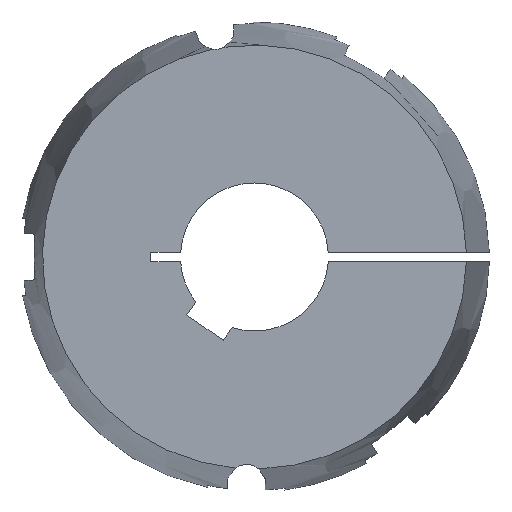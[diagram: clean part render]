
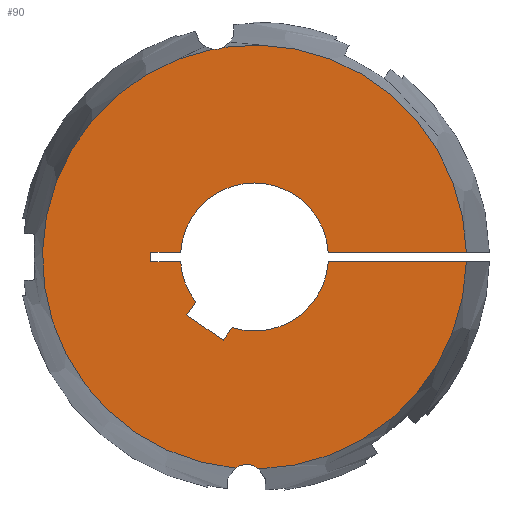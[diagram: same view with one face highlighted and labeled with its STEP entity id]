
A CAD part, left-side view. The second image highlights one B-rep face of the part: STEP entity #90.
In plain terms, the highlighted planar face has unit normal (-1, 0, 0).
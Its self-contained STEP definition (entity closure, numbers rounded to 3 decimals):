
#90 = ADVANCED_FACE( '', ( #140 ), #141, .F. );
#140 = FACE_OUTER_BOUND( '', #208, .T. );
#141 = PLANE( '', #209 );
#208 = EDGE_LOOP( '', ( #369, #370, #371, #372, #373, #374, #375, #376, #377, #378, #379, #380, #381, #382, #383, #384 ) );
#209 = AXIS2_PLACEMENT_3D( '', #385, #386, #387 );
#369 = ORIENTED_EDGE( '', *, *, #548, .F. );
#370 = ORIENTED_EDGE( '', *, *, #601, .F. );
#371 = ORIENTED_EDGE( '', *, *, #570, .T. );
#372 = ORIENTED_EDGE( '', *, *, #583, .T. );
#373 = ORIENTED_EDGE( '', *, *, #581, .T. );
#374 = ORIENTED_EDGE( '', *, *, #578, .T. );
#375 = ORIENTED_EDGE( '', *, *, #587, .T. );
#376 = ORIENTED_EDGE( '', *, *, #602, .T. );
#377 = ORIENTED_EDGE( '', *, *, #603, .T. );
#378 = ORIENTED_EDGE( '', *, *, #604, .T. );
#379 = ORIENTED_EDGE( '', *, *, #605, .T. );
#380 = ORIENTED_EDGE( '', *, *, #606, .T. );
#381 = ORIENTED_EDGE( '', *, *, #572, .T. );
#382 = ORIENTED_EDGE( '', *, *, #607, .F. );
#383 = ORIENTED_EDGE( '', *, *, #551, .F. );
#384 = ORIENTED_EDGE( '', *, *, #608, .F. );
#385 = CARTESIAN_POINT( '', ( -89., 0., 0. ) );
#386 = DIRECTION( '', ( 1., 0., 0. ) );
#387 = DIRECTION( '', ( 0., 1., 0. ) );
#548 = EDGE_CURVE( '', #649, #651, #652, .F. );
#551 = EDGE_CURVE( '', #655, #657, #658, .F. );
#570 = EDGE_CURVE( '', #693, #691, #694, .T. );
#572 = EDGE_CURVE( '', #696, #697, #698, .T. );
#578 = EDGE_CURVE( '', #709, #707, #710, .T. );
#581 = EDGE_CURVE( '', #714, #709, #715, .T. );
#583 = EDGE_CURVE( '', #691, #714, #717, .T. );
#587 = EDGE_CURVE( '', #707, #721, #723, .T. );
#601 = EDGE_CURVE( '', #693, #649, #745, .T. );
#602 = EDGE_CURVE( '', #721, #746, #747, .T. );
#603 = EDGE_CURVE( '', #746, #748, #749, .T. );
#604 = EDGE_CURVE( '', #748, #750, #751, .T. );
#605 = EDGE_CURVE( '', #750, #752, #753, .T. );
#606 = EDGE_CURVE( '', #752, #696, #754, .T. );
#607 = EDGE_CURVE( '', #657, #697, #755, .T. );
#608 = EDGE_CURVE( '', #651, #655, #756, .T. );
#649 = VERTEX_POINT( '', #815 );
#651 = VERTEX_POINT( '', #828 );
#652 = CIRCLE( '', #829, 5.25 );
#655 = VERTEX_POINT( '', #843 );
#657 = VERTEX_POINT( '', #861 );
#658 = CIRCLE( '', #862, 5.25 );
#691 = VERTEX_POINT( '', #935 );
#693 = VERTEX_POINT( '', #938 );
#694 = LINE( '', #939, #940 );
#696 = VERTEX_POINT( '', #948 );
#697 = VERTEX_POINT( '', #949 );
#698 = LINE( '', #950, #951 );
#707 = VERTEX_POINT( '', #969 );
#709 = VERTEX_POINT( '', #972 );
#710 = LINE( '', #973, #974 );
#714 = VERTEX_POINT( '', #980 );
#715 = LINE( '', #981, #982 );
#717 = CIRCLE( '', #985, 20. );
#721 = VERTEX_POINT( '', #990 );
#723 = LINE( '', #993, #994 );
#745 = CIRCLE( '', #1019, 57.277 );
#746 = VERTEX_POINT( '', #1020 );
#747 = CIRCLE( '', #1021, 20. );
#748 = VERTEX_POINT( '', #1022 );
#749 = LINE( '', #1023, #1024 );
#750 = VERTEX_POINT( '', #1025 );
#751 = LINE( '', #1026, #1027 );
#752 = VERTEX_POINT( '', #1028 );
#753 = LINE( '', #1029, #1030 );
#754 = CIRCLE( '', #1031, 20. );
#755 = CIRCLE( '', #1032, 57.277 );
#756 = CIRCLE( '', #1033, 57.277 );
#815 = CARTESIAN_POINT( '', ( -89., -1.169, -57.265 ) );
#828 = CARTESIAN_POINT( '', ( -89., 5.158, -57.044 ) );
#829 = AXIS2_PLACEMENT_3D( '', #1193, #1194, #1195 );
#843 = CARTESIAN_POINT( '', ( -89., 11.362, 56.138 ) );
#861 = CARTESIAN_POINT( '', ( -89., 8.229, 56.682 ) );
#862 = AXIS2_PLACEMENT_3D( '', #1196, #1197, #1198 );
#935 = CARTESIAN_POINT( '', ( -89., -19.961, -1.25 ) );
#938 = CARTESIAN_POINT( '', ( -89., -57.263, -1.25 ) );
#939 = CARTESIAN_POINT( '', ( -89., -63.5, -1.25 ) );
#940 = VECTOR( '', #1228, 1000. );
#948 = CARTESIAN_POINT( '', ( -89., -19.961, 1.25 ) );
#949 = CARTESIAN_POINT( '', ( -89., -57.263, 1.25 ) );
#950 = CARTESIAN_POINT( '', ( -89., 0., 1.25 ) );
#951 = VECTOR( '', #1229, 1000. );
#969 = CARTESIAN_POINT( '', ( -89., 18.279, -15.645 ) );
#972 = CARTESIAN_POINT( '', ( -89., 8.449, -22.528 ) );
#973 = CARTESIAN_POINT( '', ( -89., 8.449, -22.528 ) );
#974 = VECTOR( '', #1234, 1000. );
#980 = CARTESIAN_POINT( '', ( -89., 6.028, -19.07 ) );
#981 = CARTESIAN_POINT( '', ( -89., 6.028, -19.07 ) );
#982 = VECTOR( '', #1237, 1000. );
#985 = AXIS2_PLACEMENT_3D( '', #1239, #1240, #1241 );
#990 = CARTESIAN_POINT( '', ( -89., 15.858, -12.187 ) );
#993 = CARTESIAN_POINT( '', ( -89., 18.279, -15.645 ) );
#994 = VECTOR( '', #1247, 1000. );
#1019 = AXIS2_PLACEMENT_3D( '', #1281, #1282, #1283 );
#1020 = CARTESIAN_POINT( '', ( -89., 19.961, -1.25 ) );
#1021 = AXIS2_PLACEMENT_3D( '', #1284, #1285, #1286 );
#1022 = CARTESIAN_POINT( '', ( -89., 28., -1.25 ) );
#1023 = CARTESIAN_POINT( '', ( -89., 0., -1.25 ) );
#1024 = VECTOR( '', #1287, 1000. );
#1025 = CARTESIAN_POINT( '', ( -89., 28., 1.25 ) );
#1026 = CARTESIAN_POINT( '', ( -89., 28., -1.25 ) );
#1027 = VECTOR( '', #1288, 1000. );
#1028 = CARTESIAN_POINT( '', ( -89., 19.961, 1.25 ) );
#1029 = CARTESIAN_POINT( '', ( -89., 28., 1.25 ) );
#1030 = VECTOR( '', #1289, 1000. );
#1031 = AXIS2_PLACEMENT_3D( '', #1290, #1291, #1292 );
#1032 = AXIS2_PLACEMENT_3D( '', #1293, #1294, #1295 );
#1033 = AXIS2_PLACEMENT_3D( '', #1296, #1297, #1298 );
#1193 = CARTESIAN_POINT( '', ( -89., 2.141, -61.34 ) );
#1194 = DIRECTION( '', ( 1., 0., 0. ) );
#1195 = DIRECTION( '', ( 0., 1., 0. ) );
#1196 = CARTESIAN_POINT( '', ( -89., 10.652, 61.34 ) );
#1197 = DIRECTION( '', ( 1., 0., 0. ) );
#1198 = DIRECTION( '', ( 0., 1., 0. ) );
#1228 = DIRECTION( '', ( 0., 1., 0. ) );
#1229 = DIRECTION( '', ( 0., -1., 0. ) );
#1234 = DIRECTION( '', ( 0., 0.819, 0.574 ) );
#1237 = DIRECTION( '', ( 0., 0.574, -0.819 ) );
#1239 = CARTESIAN_POINT( '', ( -89., 0., 0. ) );
#1240 = DIRECTION( '', ( 1., 0., 0. ) );
#1241 = DIRECTION( '', ( 0., 0., -1. ) );
#1247 = DIRECTION( '', ( 0., -0.574, 0.819 ) );
#1281 = CARTESIAN_POINT( '', ( -89., 0., 0. ) );
#1282 = DIRECTION( '', ( 1., 0., 0. ) );
#1283 = DIRECTION( '', ( 0., 1., 0. ) );
#1284 = CARTESIAN_POINT( '', ( -89., 0., 0. ) );
#1285 = DIRECTION( '', ( 1., 0., 0. ) );
#1286 = DIRECTION( '', ( 0., 0., -1. ) );
#1287 = DIRECTION( '', ( 0., 1., 0. ) );
#1288 = DIRECTION( '', ( 0., 0., 1. ) );
#1289 = DIRECTION( '', ( 0., -1., 0. ) );
#1290 = CARTESIAN_POINT( '', ( -89., 0., 0. ) );
#1291 = DIRECTION( '', ( 1., 0., 0. ) );
#1292 = DIRECTION( '', ( 0., 0., -1. ) );
#1293 = CARTESIAN_POINT( '', ( -89., 0., 0. ) );
#1294 = DIRECTION( '', ( 1., 0., 0. ) );
#1295 = DIRECTION( '', ( 0., 1., 0. ) );
#1296 = CARTESIAN_POINT( '', ( -89., 0., 0. ) );
#1297 = DIRECTION( '', ( 1., 0., 0. ) );
#1298 = DIRECTION( '', ( 0., 1., 0. ) );
